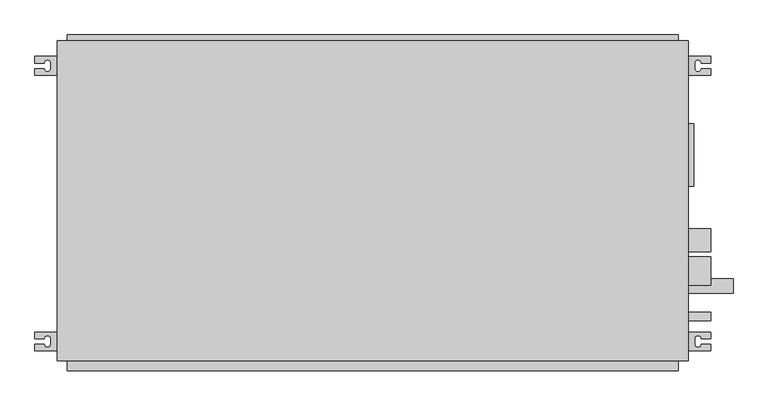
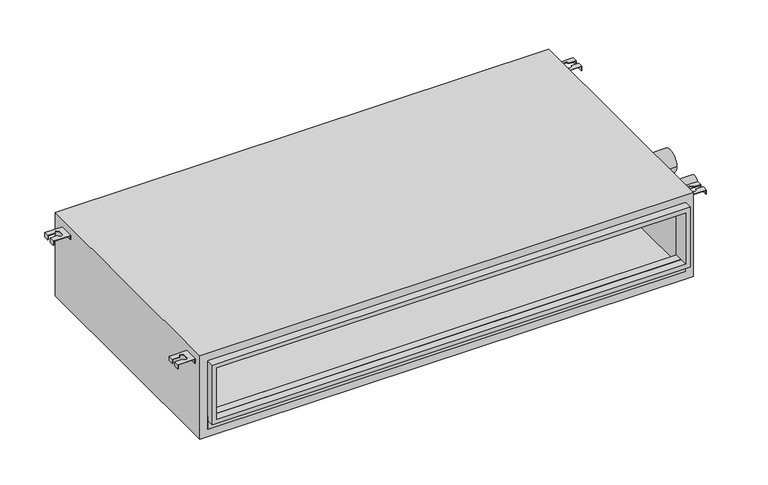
"""IFC4 building model written with IfcOpenShell, lengths in millimetres: proxy geometry, PEFY-P-NMAU-E_Medium_Static_Ducted : PEFY-P36NMAU-E."""

import ifcopenshell
import ifcopenshell.guid

model = None  # the IFC model being written
_history = None  # IfcOwnerHistory: only IFC2X3 demands one
_inside = {}  # id of a spatial element -> (the spatial element, [elements in it])
_under = {}  # id of a project, library or spatial element -> (it, [spatial elements below it])
_declared = {}  # id of a project -> (the project, [libraries it declares])
_typed = {}  # id of a type object -> (the type object, [elements of that type])
_made_of = {}  # id of a material, layer set ... -> (it, [elements and type objects made of it])


def new_model(schema):
    """Start an empty IFC model of exactly this schema.

    Asked for "IFC4X3", IfcOpenShell would pick the latest addendum, in which some entities
    have other attributes; the version numbers below select the first issue.
    IFC2X3 requires an IfcOwnerHistory on every rooted entity: one is made here for all.
    """
    global model, _history
    if schema == "IFC4X3":
        model = ifcopenshell.file(schema_version=(4, 3, 0, 0))
    else:
        model = ifcopenshell.file(schema=schema)
    _inside.clear()
    _under.clear()
    _declared.clear()
    _typed.clear()
    _made_of.clear()
    _history = None
    if model.schema == "IFC2X3":
        org = make("IfcOrganization", Name="unknown")
        user = make(
            "IfcPersonAndOrganization",
            ThePerson=make("IfcPerson", FamilyName="unknown"),
            TheOrganization=org,
        )
        app = make(
            "IfcApplication",
            ApplicationDeveloper=org,
            Version="unknown",
            ApplicationFullName="unknown",
            ApplicationIdentifier="unknown",
        )
        _history = make(
            "IfcOwnerHistory",
            OwningUser=user,
            OwningApplication=app,
            ChangeAction="ADDED",
            CreationDate=0,
        )
    return model


def make(cls, **values):
    """One entity of the class cls with the attributes given. An attribute that is None is left unset."""
    return model.create_entity(
        cls, **{name: value for name, value in values.items() if value is not None}
    )


def rooted(cls, **values):
    """An entity with a GlobalId (a new one), such as an element, a storey or a relation."""
    return make(cls, GlobalId=ifcopenshell.guid.new(), OwnerHistory=_history, **values)


def si_unit(unit_type, name, prefix=None):
    """IfcSIUnit, for example si_unit("LENGTHUNIT", "METRE", prefix="MILLI")."""
    return make("IfcSIUnit", UnitType=unit_type, Prefix=prefix, Name=name)


def assignment(units):
    """IfcUnitAssignment: the units of a project."""
    return None if units is None else make("IfcUnitAssignment", Units=units)


def point(xyz):
    """IfcCartesianPoint."""
    return None if xyz is None else make("IfcCartesianPoint", Coordinates=xyz)


def direction(xyz):
    """IfcDirection."""
    return None if xyz is None else make("IfcDirection", DirectionRatios=xyz)


def frame(location, z_axis=None, x_axis=None):
    """IfcAxis2Placement3D, a coordinate frame: its origin and axes. An axis left out is left unset."""
    return make(
        "IfcAxis2Placement3D",
        Location=point(location),
        Axis=direction(z_axis),
        RefDirection=direction(x_axis),
    )


def frame_2d(location, x_axis=None):
    """IfcAxis2Placement2D, a coordinate frame in the plane: its origin and x axis."""
    return make(
        "IfcAxis2Placement2D", Location=point(location), RefDirection=direction(x_axis)
    )


def origin():
    """The frame at (0, 0, 0) with its axes left unset."""
    return frame((0.0, 0.0, 0.0))


def place(relative_to, where):
    """IfcLocalPlacement: puts the frame where relative to a parent placement (None: the world)."""
    return make(
        "IfcLocalPlacement", PlacementRelTo=relative_to, RelativePlacement=where
    )


def context(
    kind, dimensions, precision=None, world=None, true_north=None, identifier=None
):
    """IfcGeometricRepresentationContext, for example the 3D "Model" context."""
    return make(
        "IfcGeometricRepresentationContext",
        ContextIdentifier=identifier,
        ContextType=kind,
        CoordinateSpaceDimension=dimensions,
        Precision=precision,
        WorldCoordinateSystem=world,
        TrueNorth=true_north,
    )


def project(units=None, contexts=None):
    """IfcProject with its units and contexts."""
    return rooted(
        "IfcProject",
        Name="project",
        RepresentationContexts=contexts,
        UnitsInContext=assignment(units),
    )


def spatial(cls, under=None, at=None, **own):
    """A site, building, storey or space (cls), placed at a placement, below another one or the project."""
    s = rooted(cls, ObjectPlacement=at, **own)
    if under is not None:
        _under.setdefault(under.id(), (under, []))[1].append(s)
    return s


def polyline(points):
    """IfcPolyline through the points."""
    return make("IfcPolyline", Points=[point(p) for p in points])


def circle_curve(where, radius):
    """IfcCircle in the frame where."""
    return make("IfcCircle", Position=where, Radius=radius)


def trimmed(basis, trim1, trim2, sense, master):
    """IfcTrimmedCurve: the piece of a basis curve between two trims."""
    return make(
        "IfcTrimmedCurve",
        BasisCurve=basis,
        Trim1=trim1,
        Trim2=trim2,
        SenseAgreement=sense,
        MasterRepresentation=master,
    )


def segment(curve, same_sense, transition):
    """IfcCompositeCurveSegment."""
    return make(
        "IfcCompositeCurveSegment",
        Transition=transition,
        SameSense=same_sense,
        ParentCurve=curve,
    )


def composite_curve(segments, self_intersect=None):
    """IfcCompositeCurve: segments joined end to end."""
    return make("IfcCompositeCurve", Segments=segments, SelfIntersect=self_intersect)


def outline(outer, holes=None, kind="AREA"):
    """IfcArbitraryClosedProfileDef: a profile drawn as a closed curve; with holes, ...WithVoids."""
    if holes is None:
        return make("IfcArbitraryClosedProfileDef", ProfileType=kind, OuterCurve=outer)
    return make(
        "IfcArbitraryProfileDefWithVoids",
        ProfileType=kind,
        OuterCurve=outer,
        InnerCurves=holes,
    )


def extrude(swept, where, along, depth):
    """IfcExtrudedAreaSolid: the profile swept, set in the frame where, extruded along a direction by depth."""
    return make(
        "IfcExtrudedAreaSolid",
        SweptArea=swept,
        Position=where,
        ExtrudedDirection=direction(along),
        Depth=depth,
    )


def shape(context_of_items, identifier, shape_type, items):
    """IfcShapeRepresentation: the items that make up one representation, for example the "Body"."""
    return make(
        "IfcShapeRepresentation",
        ContextOfItems=context_of_items,
        RepresentationIdentifier=identifier,
        RepresentationType=shape_type,
        Items=items,
    )


def source(mapping_origin, context_of_items, identifier, shape_type, items):
    """IfcRepresentationMap: a shape defined once, which mapped items show again and again."""
    return make(
        "IfcRepresentationMap",
        MappingOrigin=mapping_origin,
        MappedRepresentation=shape(context_of_items, identifier, shape_type, items),
    )


def transform(
    local_origin,
    x_axis=None,
    y_axis=None,
    z_axis=None,
    scale=None,
    scale2=None,
    scale3=None,
    uniform=True,
):
    """IfcCartesianTransformationOperator3D, or its non-uniform kind. x_axis, y_axis, z_axis: its Axis1, 2, 3."""
    if uniform:
        return make(
            "IfcCartesianTransformationOperator3D",
            Axis1=direction(x_axis),
            Axis2=direction(y_axis),
            LocalOrigin=point(local_origin),
            Scale=scale,
            Axis3=direction(z_axis),
        )
    return make(
        "IfcCartesianTransformationOperator3DnonUniform",
        Axis1=direction(x_axis),
        Axis2=direction(y_axis),
        LocalOrigin=point(local_origin),
        Scale=scale,
        Axis3=direction(z_axis),
        Scale2=scale2,
        Scale3=scale3,
    )


def mapped(mapping_source, mapping_target):
    """IfcMappedItem: shows the shape of a source again, moved by a transform."""
    return make(
        "IfcMappedItem", MappingSource=mapping_source, MappingTarget=mapping_target
    )


def made_of(thing, what):
    """Note that an element or type object is made of a material, layer set ...; save() writes the relation."""
    if what is not None:
        _made_of.setdefault(what.id(), (what, []))[1].append(thing)
    return thing


def element(
    cls,
    number,
    at=None,
    inside=None,
    cuts=None,
    type_object=None,
    material=None,
    context=None,
    identifier="Body",
    shape_type=None,
    held_by="IfcProductDefinitionShape",
    body=None,
    shapes=None,
    **own,
):
    """One element of the class cls, such as IfcWall. Its Tag is "e" and its number.

    at: its placement. inside: the storey or other place that contains it. cuts: it is an
    opening in that element (IfcRelVoidsElement). A single representation is given by context,
    identifier, shape_type and body (its items); several are given by shapes. held_by: the class
    of the entity that holds the representations. save() writes the other relations.
    """
    e = rooted(cls, Tag="e%d" % number, ObjectPlacement=at, **own)
    if body is not None:
        shapes = [shape(context, identifier, shape_type, body)]
    if shapes is not None:
        e.Representation = make(held_by, Representations=shapes)
    if inside is not None:
        _inside.setdefault(inside.id(), (inside, []))[1].append(e)
    if cuts is not None:
        rooted(
            "IfcRelVoidsElement", RelatingBuildingElement=cuts, RelatedOpeningElement=e
        )
    if type_object is not None:
        _typed.setdefault(type_object.id(), (type_object, []))[1].append(e)
    return made_of(e, material)


def aggregate(whole, parts):
    """IfcRelAggregates: a whole, such as a stair, and the parts it consists of."""
    return rooted("IfcRelAggregates", RelatingObject=whole, RelatedObjects=parts)


def save(model, path):
    """Write the relations noted so far, then the file.

    IfcRelAggregates (storeys below a building ...), IfcRelContainedInSpatialStructure (elements
    in a storey), IfcRelDefinesByType, IfcRelAssociatesMaterial and IfcRelDeclares: one each for
    every whole, place, type object, material and project.
    """
    for whole, parts in _under.values():
        aggregate(whole, parts)
    for where, things in _inside.values():
        rooted(
            "IfcRelContainedInSpatialStructure",
            RelatedElements=things,
            RelatingStructure=where,
        )
    for kind, things in _typed.values():
        rooted("IfcRelDefinesByType", RelatedObjects=things, RelatingType=kind)
    for what, things in _made_of.values():
        rooted("IfcRelAssociatesMaterial", RelatedObjects=things, RelatingMaterial=what)
    for by, libraries in _declared.values():
        rooted("IfcRelDeclares", RelatingContext=by, RelatedDefinitions=libraries)
    model.write(path)


def plane_surface(at):
    """IfcPlane: the flat surface through the origin of the frame at, square to its z axis."""
    return make("IfcPlane", Position=at)


def revolved_surface(curve, axis_point, axis_direction):
    """IfcSurfaceOfRevolution: the curve turned about the line through axis_point along axis_direction."""
    return make(
        "IfcSurfaceOfRevolution",
        SweptCurve=make("IfcArbitraryOpenProfileDef", ProfileType="CURVE", Curve=curve),
        AxisPosition=make("IfcAxis1Placement", Location=point(axis_point), Axis=direction(axis_direction)),
    )


def advanced_brep(points, edges, surfaces, faces):
    """IfcAdvancedBrep: a solid bounded by faces that lie on surfaces and meet in shared edges.

    An edge is (start, end): straight between two places in points (the first is 0);
    or (start, end, curve); or (start, end, curve, False) where it runs against its curve.
    A face is (place in surfaces, loops), or (place, loops, False) where it looks against
    its surface's normal. A loop lists edges by number (the first is 1), with a minus sign
    where the edge is run from its end to its start. The first loop is the outer one.
    """
    corners = [point(p) for p in points]
    vertices = [make("IfcVertexPoint", VertexGeometry=c) for c in corners]
    made = []
    for start, end, *more in edges:
        made.append(
            make(
                "IfcEdgeCurve",
                EdgeStart=vertices[start],
                EdgeEnd=vertices[end],
                EdgeGeometry=more[0] if more else make("IfcPolyline", Points=[corners[start], corners[end]]),
                SameSense=more[1] if len(more) > 1 else True,
            )
        )
    hull = []
    for where, loops, *sense in faces:
        bounds = []
        for j, loop in enumerate(loops):
            ring = [make("IfcOrientedEdge", EdgeElement=made[abs(k) - 1], Orientation=k > 0) for k in loop]
            bounds.append(
                make(
                    "IfcFaceOuterBound" if j == 0 else "IfcFaceBound",
                    Bound=make("IfcEdgeLoop", EdgeList=ring),
                    Orientation=True,
                )
            )
        hull.append(make("IfcAdvancedFace", Bounds=bounds, FaceSurface=surfaces[where], SameSense=sense[0] if sense else True))
    return make("IfcAdvancedBrep", Outer=make("IfcClosedShell", CfsFaces=hull))


def mechanical_equipment_d478180c(model_context):
    return source(origin(), model_context, "Body", "SolidModel", [
        advanced_brep(
        [(-760.105993, -231.05, 249.2375), (-760.105993, -246.05, 249.2375), (-739.099743, -246.05, 249.2375), (-725.099743, -246.05, 249.2375), (-725.099743, -258.05, 249.2375), (-739.099743, -258.05, 249.2375), (-760.105993, -258.05, 249.2375), (-760.105993, -273.05, 249.2375), (-710.099743, -273.05, 249.2375), (-710.099743, -231.05, 249.2375), (-760.105993, -231.05, 236.4972162), (-758.517993, -231.05, 236.4972162), (-758.517993, -246.05, 236.4972162), (-760.105993, -246.05, 236.4972162), (-758.517993, -273.05, 236.4972162), (-760.105993, -273.05, 236.4972162), (-760.105993, -258.05, 236.4972162), (-758.517993, -258.05, 236.4972162), (-710.099743, -231.05, 236.4972162), (-710.099743, -273.05, 236.4972162), (-711.687743, -273.05, 236.4972162), (-711.687743, -231.05, 236.4972162), (-758.517993, -246.05, 247.65), (-739.099743, -246.05, 247.65), (-758.517993, -231.05, 247.65), (-711.687743, -231.05, 247.65), (-758.517993, -258.05, 247.65), (-758.517993, -273.05, 247.65), (-739.099743, -258.05, 247.65), (-711.687743, -273.05, 247.65), (-725.099743, -258.05, 247.65), (-725.099743, -246.05, 247.65)],
        [
            (0, 1),
            (1, 2),
            (2, 3, circle_curve(frame((-732.099743, -246.05, 249.2375), z_axis=(0.0, 0.0, -1.0), x_axis=(1.0, 0.0, 0.0)), 7.0)),
            (3, 4),
            (4, 5, circle_curve(frame((-732.099743, -258.05, 249.2375), z_axis=(0.0, 0.0, -1.0), x_axis=(1.0, 0.0, 0.0)), 7.0)),
            (5, 6),
            (6, 7),
            (7, 8),
            (8, 9),
            (9, 0),
            (10, 11),
            (11, 12),
            (12, 13),
            (13, 10),
            (14, 15),
            (15, 16),
            (16, 17),
            (17, 14),
            (18, 19),
            (19, 20),
            (20, 21),
            (21, 18),
            (13, 1),
            (0, 10),
            (12, 22),
            (22, 23),
            (23, 2),
            (11, 24),
            (24, 22),
            (9, 18),
            (21, 25),
            (25, 24),
            (17, 26),
            (26, 27),
            (27, 14),
            (5, 28),
            (28, 26),
            (16, 6),
            (15, 7),
            (27, 29),
            (29, 20),
            (19, 8),
            (29, 25),
            (30, 31),
            (31, 23, circle_curve(frame((-732.099743, -246.05, 247.65), z_axis=(0.0, 0.0, 1.0), x_axis=(1.0, 0.0, 0.0)), 7.0)),
            (28, 30, circle_curve(frame((-732.099743, -258.05, 247.65), z_axis=(0.0, 0.0, 1.0), x_axis=(1.0, 0.0, 0.0)), 7.0)),
            (4, 30),
            (31, 3),
        ],
        [
            plane_surface(frame((-760.105993, -231.05, 249.2375), z_axis=(0.0, 0.0, 1.0), x_axis=(0.0, -1.0, 0.0))),
            plane_surface(frame((-760.105993, -231.05, 236.4972162), z_axis=(0.0, 0.0, -1.0), x_axis=(0.0, 1.0, 0.0))),
            plane_surface(frame((-760.105993, -231.05, 249.2375), z_axis=(-1.0, 0.0, 0.0), x_axis=(0.0, 0.0, -1.0))),
            plane_surface(frame((-760.105993, -246.05, 249.2375), z_axis=(0.0, -1.0, 0.0), x_axis=(0.0, 0.0, -1.0))),
            plane_surface(frame((-758.517993, -246.05, 249.2375), z_axis=(1.0, 0.0, 0.0), x_axis=(0.0, 0.0, -1.0))),
            plane_surface(frame((-758.517993, -231.05, 249.2375), z_axis=(0.0, 1.0, 0.0), x_axis=(0.0, 0.0, -1.0))),
            plane_surface(frame((-758.517993, -273.05, 249.2375), z_axis=(1.0, 0.0, 0.0), x_axis=(0.0, 0.0, -1.0))),
            plane_surface(frame((-758.517993, -258.05, 249.2375), z_axis=(0.0, 1.0, 0.0), x_axis=(0.0, 0.0, -1.0))),
            plane_surface(frame((-760.105993, -258.05, 249.2375), z_axis=(-1.0, 0.0, 0.0), x_axis=(0.0, 0.0, -1.0))),
            plane_surface(frame((-760.105993, -273.05, 249.2375), z_axis=(0.0, -1.0, 0.0), x_axis=(0.0, 0.0, -1.0))),
            plane_surface(frame((-711.687743, -231.05, 249.2375), z_axis=(-1.0, 0.0, 0.0), x_axis=(0.0, 0.0, -1.0))),
            plane_surface(frame((-710.099743, -273.05, 249.2375), z_axis=(1.0, 0.0, 0.0), x_axis=(0.0, 0.0, -1.0))),
            plane_surface(frame((-725.099743, -258.05, 247.65), z_axis=(0.0, 0.0, -1.0), x_axis=(0.0, 1.0, 0.0))),
            revolved_surface(polyline([(-725.099743, -258.05, 247.65), (-725.099743, -258.05, 249.2375)]), (-732.099743, -258.05, 247.65), (0.0, 0.0, -1.0)),
            revolved_surface(polyline([(-725.099743, -246.05, 247.65), (-725.099743, -246.05, 249.2375)]), (-732.099743, -246.05, 247.65), (0.0, 0.0, -1.0)),
            plane_surface(frame((-725.099743, -246.05, 249.2375), z_axis=(-1.0, 0.0, 0.0), x_axis=(0.0, 0.0, -1.0))),
        ],
        [
            (0, [[1, 2, 3, 4, 5, 6, 7, 8, 9, 10]]),
            (1, [[11, 12, 13, 14]]),
            (1, [[15, 16, 17, 18]]),
            (1, [[19, 20, 21, 22]]),
            (2, [[23, -1, 24, -14]]),
            (3, [[-2, -23, -13, 25, 26, 27]]),
            (4, [[-12, 28, 29, -25]]),
            (5, [[-10, 30, -22, 31, 32, -28, -11, -24]]),
            (6, [[-18, 33, 34, 35]]),
            (7, [[-6, 36, 37, -33, -17, 38]]),
            (8, [[39, -7, -38, -16]]),
            (9, [[-8, -39, -15, -35, 40, 41, -20, 42]]),
            (10, [[-21, -41, 43, -31]]),
            (11, [[-30, -9, -42, -19]]),
            (12, [[44, 45, -26, -29, -32, -43, -40, -34, -37, 46]]),
            (13, [[-5, 47, -46, -36]]),
            (14, [[-3, -27, -45, 48]]),
            (15, [[-4, -48, -44, -47]]),
        ],
    ),
        advanced_brep(
        [(740.081507, -231.05, 249.2375), (690.075257, -231.05, 249.2375), (690.075257, -273.05, 249.2375), (740.081507, -273.05, 249.2375), (740.081507, -258.05, 249.2375), (719.075257, -258.05, 249.2375), (705.075257, -258.05, 249.2375), (705.075257, -246.05, 249.2375), (719.075257, -246.05, 249.2375), (740.081507, -246.05, 249.2375), (740.081507, -231.05, 236.4972162), (740.081507, -246.05, 236.4972162), (738.493507, -246.05, 236.4972162), (738.493507, -231.05, 236.4972162), (738.493507, -273.05, 236.4972162), (738.493507, -258.05, 236.4972162), (740.081507, -258.05, 236.4972162), (740.081507, -273.05, 236.4972162), (690.075257, -231.05, 236.4972162), (691.663257, -231.05, 236.4972162), (691.663257, -273.05, 236.4972162), (690.075257, -273.05, 236.4972162), (719.075257, -246.05, 247.65), (738.493507, -246.05, 247.65), (738.493507, -231.05, 247.65), (691.663257, -231.05, 247.65), (738.493507, -273.05, 247.65), (738.493507, -258.05, 247.65), (719.075257, -258.05, 247.65), (691.663257, -273.05, 247.65), (705.075257, -258.05, 247.65), (705.075257, -246.05, 247.65)],
        [
            (0, 1),
            (1, 2),
            (2, 3),
            (3, 4),
            (4, 5),
            (5, 6, circle_curve(frame((712.075257, -258.05, 249.2375), z_axis=(0.0, 0.0, -1.0), x_axis=(-1.0, 0.0, 0.0)), 7.0)),
            (6, 7),
            (7, 8, circle_curve(frame((712.075257, -246.05, 249.2375), z_axis=(0.0, 0.0, -1.0), x_axis=(-1.0, 0.0, 0.0)), 7.0)),
            (8, 9),
            (9, 0),
            (10, 11),
            (11, 12),
            (12, 13),
            (13, 10),
            (14, 15),
            (15, 16),
            (16, 17),
            (17, 14),
            (18, 19),
            (19, 20),
            (20, 21),
            (21, 18),
            (10, 0),
            (9, 11),
            (8, 22),
            (22, 23),
            (23, 12),
            (23, 24),
            (24, 13),
            (24, 25),
            (25, 19),
            (18, 1),
            (14, 26),
            (26, 27),
            (27, 15),
            (4, 16),
            (27, 28),
            (28, 5),
            (3, 17),
            (2, 21),
            (20, 29),
            (29, 26),
            (25, 29),
            (30, 28, circle_curve(frame((712.075257, -258.05, 247.65), z_axis=(0.0, 0.0, 1.0), x_axis=(-1.0, 0.0, 0.0)), 7.0)),
            (22, 31, circle_curve(frame((712.075257, -246.05, 247.65), z_axis=(0.0, 0.0, 1.0), x_axis=(-1.0, 0.0, 0.0)), 7.0)),
            (31, 30),
            (30, 6),
            (7, 31),
        ],
        [
            plane_surface(frame((740.081507, -231.05, 249.2375), z_axis=(0.0, 0.0, 1.0), x_axis=(0.0, -1.0, 0.0))),
            plane_surface(frame((740.081507, -231.05, 236.4972162), z_axis=(0.0, 0.0, -1.0), x_axis=(0.0, 1.0, 0.0))),
            plane_surface(frame((740.081507, -231.05, 249.2375), z_axis=(1.0, 0.0, 0.0), x_axis=(0.0, 0.0, -1.0))),
            plane_surface(frame((740.081507, -246.05, 249.2375), z_axis=(0.0, -1.0, 0.0), x_axis=(0.0, 0.0, -1.0))),
            plane_surface(frame((738.493507, -246.05, 249.2375), z_axis=(-1.0, 0.0, 0.0), x_axis=(0.0, 0.0, -1.0))),
            plane_surface(frame((738.493507, -231.05, 249.2375), z_axis=(0.0, 1.0, 0.0), x_axis=(0.0, 0.0, -1.0))),
            plane_surface(frame((738.493507, -273.05, 249.2375), z_axis=(-1.0, 0.0, 0.0), x_axis=(0.0, 0.0, -1.0))),
            plane_surface(frame((738.493507, -258.05, 249.2375), z_axis=(0.0, 1.0, 0.0), x_axis=(0.0, 0.0, -1.0))),
            plane_surface(frame((740.081507, -258.05, 249.2375), z_axis=(1.0, 0.0, 0.0), x_axis=(0.0, 0.0, -1.0))),
            plane_surface(frame((740.081507, -273.05, 249.2375), z_axis=(0.0, -1.0, 0.0), x_axis=(0.0, 0.0, -1.0))),
            plane_surface(frame((691.663257, -231.05, 249.2375), z_axis=(1.0, 0.0, 0.0), x_axis=(0.0, 0.0, -1.0))),
            plane_surface(frame((690.075257, -273.05, 249.2375), z_axis=(-1.0, 0.0, 0.0), x_axis=(0.0, 0.0, -1.0))),
            plane_surface(frame((705.075257, -258.05, 247.65), z_axis=(0.0, 0.0, -1.0), x_axis=(0.0, 1.0, 0.0))),
            revolved_surface(polyline([(705.075257, -258.05, 247.65), (705.075257, -258.05, 249.2375)]), (712.075257, -258.05, 247.65), (0.0, 0.0, -1.0)),
            revolved_surface(polyline([(705.075257, -246.05, 247.65), (705.075257, -246.05, 249.2375)]), (712.075257, -246.05, 247.65), (0.0, 0.0, -1.0)),
            plane_surface(frame((705.075257, -246.05, 249.2375), z_axis=(1.0, 0.0, 0.0), x_axis=(0.0, 0.0, -1.0))),
        ],
        [
            (0, [[1, 2, 3, 4, 5, 6, 7, 8, 9, 10]]),
            (1, [[11, 12, 13, 14]]),
            (1, [[15, 16, 17, 18]]),
            (1, [[19, 20, 21, 22]]),
            (2, [[-11, 23, -10, 24]]),
            (3, [[25, 26, 27, -12, -24, -9]]),
            (4, [[-27, 28, 29, -13]]),
            (5, [[-23, -14, -29, 30, 31, -19, 32, -1]]),
            (6, [[33, 34, 35, -15]]),
            (7, [[36, -16, -35, 37, 38, -5]]),
            (8, [[-17, -36, -4, 39]]),
            (9, [[40, -21, 41, 42, -33, -18, -39, -3]]),
            (10, [[-31, 43, -41, -20]]),
            (11, [[-22, -40, -2, -32]]),
            (12, [[44, -37, -34, -42, -43, -30, -28, -26, 45, 46]]),
            (13, [[-38, -44, 47, -6]]),
            (14, [[48, -45, -25, -8]]),
            (15, [[-47, -46, -48, -7]]),
        ],
    ),
        advanced_brep(
        [(-760.105993, 339.0, 249.2375), (-710.099743, 339.0, 249.2375), (-710.099743, 381.0, 249.2375), (-760.105993, 381.0, 249.2375), (-760.105993, 366.0, 249.2375), (-739.099743, 366.0, 249.2375), (-725.099743, 366.0, 249.2375), (-725.099743, 354.0, 249.2375), (-739.099743, 354.0, 249.2375), (-760.105993, 354.0, 249.2375), (-760.105993, 339.0, 236.4972162), (-760.105993, 354.0, 236.4972162), (-758.517993, 354.0, 236.4972162), (-758.517993, 339.0, 236.4972162), (-758.517993, 381.0, 236.4972162), (-758.517993, 366.0, 236.4972162), (-760.105993, 366.0, 236.4972162), (-760.105993, 381.0, 236.4972162), (-710.099743, 339.0, 236.4972162), (-711.687743, 339.0, 236.4972162), (-711.687743, 381.0, 236.4972162), (-710.099743, 381.0, 236.4972162), (-739.099743, 354.0, 247.65), (-758.517993, 354.0, 247.65), (-758.517993, 339.0, 247.65), (-711.687743, 339.0, 247.65), (-758.517993, 381.0, 247.65), (-758.517993, 366.0, 247.65), (-739.099743, 366.0, 247.65), (-711.687743, 381.0, 247.65), (-725.099743, 366.0, 247.65), (-725.099743, 354.0, 247.65)],
        [
            (0, 1),
            (1, 2),
            (2, 3),
            (3, 4),
            (4, 5),
            (5, 6, circle_curve(frame((-732.099743, 366.0, 249.2375), z_axis=(0.0, 0.0, -1.0), x_axis=(1.0, 0.0, 0.0)), 7.0)),
            (6, 7),
            (7, 8, circle_curve(frame((-732.099743, 354.0, 249.2375), z_axis=(0.0, 0.0, -1.0), x_axis=(1.0, 0.0, 0.0)), 7.0)),
            (8, 9),
            (9, 0),
            (10, 11),
            (11, 12),
            (12, 13),
            (13, 10),
            (14, 15),
            (15, 16),
            (16, 17),
            (17, 14),
            (18, 19),
            (19, 20),
            (20, 21),
            (21, 18),
            (10, 0),
            (9, 11),
            (8, 22),
            (22, 23),
            (23, 12),
            (23, 24),
            (24, 13),
            (24, 25),
            (25, 19),
            (18, 1),
            (14, 26),
            (26, 27),
            (27, 15),
            (4, 16),
            (27, 28),
            (28, 5),
            (3, 17),
            (2, 21),
            (20, 29),
            (29, 26),
            (25, 29),
            (30, 28, circle_curve(frame((-732.099743, 366.0, 247.65), z_axis=(0.0, 0.0, 1.0), x_axis=(1.0, 0.0, 0.0)), 7.0)),
            (22, 31, circle_curve(frame((-732.099743, 354.0, 247.65), z_axis=(0.0, 0.0, 1.0), x_axis=(1.0, 0.0, 0.0)), 7.0)),
            (31, 30),
            (30, 6),
            (7, 31),
        ],
        [
            plane_surface(frame((-760.105993, 339.0, 249.2375), z_axis=(0.0, 0.0, 1.0), x_axis=(0.0, 1.0, 0.0))),
            plane_surface(frame((-760.105993, 339.0, 236.4972162), z_axis=(0.0, 0.0, -1.0), x_axis=(0.0, -1.0, 0.0))),
            plane_surface(frame((-760.105993, 339.0, 249.2375), z_axis=(-1.0, 0.0, 0.0), x_axis=(0.0, 0.0, -1.0))),
            plane_surface(frame((-760.105993, 354.0, 249.2375), z_axis=(0.0, 1.0, 0.0), x_axis=(0.0, 0.0, -1.0))),
            plane_surface(frame((-758.517993, 354.0, 249.2375), z_axis=(1.0, 0.0, 0.0), x_axis=(0.0, 0.0, -1.0))),
            plane_surface(frame((-758.517993, 339.0, 249.2375), z_axis=(0.0, -1.0, 0.0), x_axis=(0.0, 0.0, -1.0))),
            plane_surface(frame((-758.517993, 381.0, 249.2375), z_axis=(1.0, 0.0, 0.0), x_axis=(0.0, 0.0, -1.0))),
            plane_surface(frame((-758.517993, 366.0, 249.2375), z_axis=(0.0, -1.0, 0.0), x_axis=(0.0, 0.0, -1.0))),
            plane_surface(frame((-760.105993, 366.0, 249.2375), z_axis=(-1.0, 0.0, 0.0), x_axis=(0.0, 0.0, -1.0))),
            plane_surface(frame((-760.105993, 381.0, 249.2375), z_axis=(0.0, 1.0, 0.0), x_axis=(0.0, 0.0, -1.0))),
            plane_surface(frame((-711.687743, 339.0, 249.2375), z_axis=(-1.0, 0.0, 0.0), x_axis=(0.0, 0.0, -1.0))),
            plane_surface(frame((-710.099743, 381.0, 249.2375), z_axis=(1.0, 0.0, 0.0), x_axis=(0.0, 0.0, -1.0))),
            plane_surface(frame((-725.099743, 366.0, 247.65), z_axis=(0.0, 0.0, -1.0), x_axis=(0.0, -1.0, 0.0))),
            revolved_surface(polyline([(-725.099743, 366.0, 247.65), (-725.099743, 366.0, 249.2375)]), (-732.099743, 366.0, 247.65), (0.0, 0.0, -1.0)),
            revolved_surface(polyline([(-725.099743, 354.0, 247.65), (-725.099743, 354.0, 249.2375)]), (-732.099743, 354.0, 247.65), (0.0, 0.0, -1.0)),
            plane_surface(frame((-725.099743, 354.0, 249.2375), z_axis=(-1.0, 0.0, 0.0), x_axis=(0.0, 0.0, -1.0))),
        ],
        [
            (0, [[1, 2, 3, 4, 5, 6, 7, 8, 9, 10]]),
            (1, [[11, 12, 13, 14]]),
            (1, [[15, 16, 17, 18]]),
            (1, [[19, 20, 21, 22]]),
            (2, [[-11, 23, -10, 24]]),
            (3, [[25, 26, 27, -12, -24, -9]]),
            (4, [[-27, 28, 29, -13]]),
            (5, [[-23, -14, -29, 30, 31, -19, 32, -1]]),
            (6, [[33, 34, 35, -15]]),
            (7, [[36, -16, -35, 37, 38, -5]]),
            (8, [[-17, -36, -4, 39]]),
            (9, [[40, -21, 41, 42, -33, -18, -39, -3]]),
            (10, [[-31, 43, -41, -20]]),
            (11, [[-22, -40, -2, -32]]),
            (12, [[44, -37, -34, -42, -43, -30, -28, -26, 45, 46]]),
            (13, [[-38, -44, 47, -6]]),
            (14, [[48, -45, -25, -8]]),
            (15, [[-47, -46, -48, -7]]),
        ],
    ),
        advanced_brep(
        [(740.081507, 339.0, 249.2375), (740.081507, 354.0, 249.2375), (719.075257, 354.0, 249.2375), (705.075257, 354.0, 249.2375), (705.075257, 366.0, 249.2375), (719.075257, 366.0, 249.2375), (740.081507, 366.0, 249.2375), (740.081507, 381.0, 249.2375), (690.075257, 381.0, 249.2375), (690.075257, 339.0, 249.2375), (740.081507, 339.0, 236.4972162), (738.493507, 339.0, 236.4972162), (738.493507, 354.0, 236.4972162), (740.081507, 354.0, 236.4972162), (738.493507, 381.0, 236.4972162), (740.081507, 381.0, 236.4972162), (740.081507, 366.0, 236.4972162), (738.493507, 366.0, 236.4972162), (690.075257, 339.0, 236.4972162), (690.075257, 381.0, 236.4972162), (691.663257, 381.0, 236.4972162), (691.663257, 339.0, 236.4972162), (738.493507, 354.0, 247.65), (719.075257, 354.0, 247.65), (738.493507, 339.0, 247.65), (691.663257, 339.0, 247.65), (738.493507, 366.0, 247.65), (738.493507, 381.0, 247.65), (719.075257, 366.0, 247.65), (691.663257, 381.0, 247.65), (705.075257, 366.0, 247.65), (705.075257, 354.0, 247.65)],
        [
            (0, 1),
            (1, 2),
            (2, 3, circle_curve(frame((712.075257, 354.0, 249.2375), z_axis=(0.0, 0.0, -1.0), x_axis=(-1.0, 0.0, 0.0)), 7.0)),
            (3, 4),
            (4, 5, circle_curve(frame((712.075257, 366.0, 249.2375), z_axis=(0.0, 0.0, -1.0), x_axis=(-1.0, 0.0, 0.0)), 7.0)),
            (5, 6),
            (6, 7),
            (7, 8),
            (8, 9),
            (9, 0),
            (10, 11),
            (11, 12),
            (12, 13),
            (13, 10),
            (14, 15),
            (15, 16),
            (16, 17),
            (17, 14),
            (18, 19),
            (19, 20),
            (20, 21),
            (21, 18),
            (13, 1),
            (0, 10),
            (12, 22),
            (22, 23),
            (23, 2),
            (11, 24),
            (24, 22),
            (9, 18),
            (21, 25),
            (25, 24),
            (17, 26),
            (26, 27),
            (27, 14),
            (5, 28),
            (28, 26),
            (16, 6),
            (15, 7),
            (27, 29),
            (29, 20),
            (19, 8),
            (29, 25),
            (30, 31),
            (31, 23, circle_curve(frame((712.075257, 354.0, 247.65), z_axis=(0.0, 0.0, 1.0), x_axis=(-1.0, 0.0, 0.0)), 7.0)),
            (28, 30, circle_curve(frame((712.075257, 366.0, 247.65), z_axis=(0.0, 0.0, 1.0), x_axis=(-1.0, 0.0, 0.0)), 7.0)),
            (4, 30),
            (31, 3),
        ],
        [
            plane_surface(frame((740.081507, 339.0, 249.2375), z_axis=(0.0, 0.0, 1.0), x_axis=(0.0, 1.0, 0.0))),
            plane_surface(frame((740.081507, 339.0, 236.4972162), z_axis=(0.0, 0.0, -1.0), x_axis=(0.0, -1.0, 0.0))),
            plane_surface(frame((740.081507, 339.0, 249.2375), z_axis=(1.0, 0.0, 0.0), x_axis=(0.0, 0.0, -1.0))),
            plane_surface(frame((740.081507, 354.0, 249.2375), z_axis=(0.0, 1.0, 0.0), x_axis=(0.0, 0.0, -1.0))),
            plane_surface(frame((738.493507, 354.0, 249.2375), z_axis=(-1.0, 0.0, 0.0), x_axis=(0.0, 0.0, -1.0))),
            plane_surface(frame((738.493507, 339.0, 249.2375), z_axis=(0.0, -1.0, 0.0), x_axis=(0.0, 0.0, -1.0))),
            plane_surface(frame((738.493507, 381.0, 249.2375), z_axis=(-1.0, 0.0, 0.0), x_axis=(0.0, 0.0, -1.0))),
            plane_surface(frame((738.493507, 366.0, 249.2375), z_axis=(0.0, -1.0, 0.0), x_axis=(0.0, 0.0, -1.0))),
            plane_surface(frame((740.081507, 366.0, 249.2375), z_axis=(1.0, 0.0, 0.0), x_axis=(0.0, 0.0, -1.0))),
            plane_surface(frame((740.081507, 381.0, 249.2375), z_axis=(0.0, 1.0, 0.0), x_axis=(0.0, 0.0, -1.0))),
            plane_surface(frame((691.663257, 339.0, 249.2375), z_axis=(1.0, 0.0, 0.0), x_axis=(0.0, 0.0, -1.0))),
            plane_surface(frame((690.075257, 381.0, 249.2375), z_axis=(-1.0, 0.0, 0.0), x_axis=(0.0, 0.0, -1.0))),
            plane_surface(frame((705.075257, 366.0, 247.65), z_axis=(0.0, 0.0, -1.0), x_axis=(0.0, -1.0, 0.0))),
            revolved_surface(polyline([(705.075257, 366.0, 247.65), (705.075257, 366.0, 249.2375)]), (712.075257, 366.0, 247.65), (0.0, 0.0, -1.0)),
            revolved_surface(polyline([(705.075257, 354.0, 247.65), (705.075257, 354.0, 249.2375)]), (712.075257, 354.0, 247.65), (0.0, 0.0, -1.0)),
            plane_surface(frame((705.075257, 354.0, 249.2375), z_axis=(1.0, 0.0, 0.0), x_axis=(0.0, 0.0, -1.0))),
        ],
        [
            (0, [[1, 2, 3, 4, 5, 6, 7, 8, 9, 10]]),
            (1, [[11, 12, 13, 14]]),
            (1, [[15, 16, 17, 18]]),
            (1, [[19, 20, 21, 22]]),
            (2, [[23, -1, 24, -14]]),
            (3, [[-2, -23, -13, 25, 26, 27]]),
            (4, [[-12, 28, 29, -25]]),
            (5, [[-10, 30, -22, 31, 32, -28, -11, -24]]),
            (6, [[-18, 33, 34, 35]]),
            (7, [[-6, 36, 37, -33, -17, 38]]),
            (8, [[39, -7, -38, -16]]),
            (9, [[-8, -39, -15, -35, 40, 41, -20, 42]]),
            (10, [[-21, -41, 43, -31]]),
            (11, [[-30, -9, -42, -19]]),
            (12, [[44, 45, -26, -29, -32, -43, -40, -34, -37, 46]]),
            (13, [[-5, 47, -46, -36]]),
            (14, [[-3, -27, -45, 48]]),
            (15, [[-4, -48, -44, -47]]),
        ],
    ),
        extrude(outline(polyline([(667.850257, -295.275), (-687.874743, -295.275), (-687.874743, -273.05), (667.850257, -273.05), (667.850257, -295.275)])), frame((0.0, 0.0, 42.8625), z_axis=(0.0, 0.0, 1.0), x_axis=(1.0, 0.0, 0.0)), (0.0, 0.0, 1.0), 39.6875),
        extrude(outline(polyline([(249.2375, 667.850257), (249.2375, -687.874743), (69.85, -687.874743), (69.85, 667.850257), (249.2375, 667.850257)]), holes=[polyline([(82.55, 655.150257), (82.55, -675.174743), (236.5375, -675.174743), (236.5375, 655.150257), (82.55, 655.150257)])]), frame((0.0, -317.5, 0.0), z_axis=(0.0, 1.0, 0.0), x_axis=(0.0, 0.0, 1.0)), (0.0, 0.0, 1.0), 44.45),
        extrude(outline(polyline([(667.850257, 415.925), (-687.874743, 415.925), (-687.874743, 428.625), (667.850257, 428.625), (667.850257, 415.925)])), frame((0.0, 0.0, 42.8625), z_axis=(0.0, 0.0, 1.0), x_axis=(1.0, 0.0, 0.0)), (0.0, 0.0, 1.0), 206.375),
        extrude(outline(polyline([(271.4625, 690.075257), (271.4625, -710.099743), (20.6375, -710.099743), (20.6375, 690.075257), (271.4625, 690.075257)]), holes=[polyline([(42.8625, -687.874743), (249.2375, -687.874743), (249.2375, 667.850257), (42.8625, 667.850257), (42.8625, -687.874743)])]), frame((0.0, -295.275, 0.0), z_axis=(0.0, 1.0, 0.0), x_axis=(0.0, 0.0, 1.0)), (0.0, 0.0, 1.0), 711.2),
        extrude(outline(composite_curve([segment(trimmed(circle_curve(frame_2d((-26.9875, 109.5375)), 25.4), [point((-1.5875, 109.5375))], [point((-52.3875, 109.5375))], False, "CARTESIAN"), True, "CONTINUOUS"), segment(trimmed(circle_curve(frame_2d((-26.9875, 109.5375)), 25.4), [point((-52.3875, 109.5375))], [point((-1.5875, 109.5375))], False, "CARTESIAN"), True, "CONTINUOUS")], self_intersect=False)), frame((690.075257, 0.0, 0.0), z_axis=(1.0, 0.0, 0.0), x_axis=(0.0, 1.0, 0.0)), (0.0, 0.0, 1.0), 50.00625),
        extrude(outline(composite_curve([segment(trimmed(circle_curve(frame_2d((-128.5875, 171.45)), 15.875), [point((-112.7125, 171.45))], [point((-144.4625, 171.45))], False, "CARTESIAN"), True, "CONTINUOUS"), segment(trimmed(circle_curve(frame_2d((-128.5875, 171.45)), 15.875), [point((-144.4625, 171.45))], [point((-112.7125, 171.45))], False, "CARTESIAN"), True, "CONTINUOUS")], self_intersect=False)), frame((690.075257, 0.0, 0.0), z_axis=(1.0, 0.0, 0.0), x_axis=(0.0, 1.0, 0.0)), (0.0, 0.0, 1.0), 100.0125),
        extrude(outline(composite_curve([segment(trimmed(circle_curve(frame_2d((-95.25, 230.1875)), 31.75), [point((-63.5, 230.1875))], [point((-127.0, 230.1875))], False, "CARTESIAN"), True, "CONTINUOUS"), segment(trimmed(circle_curve(frame_2d((-95.25, 230.1875)), 31.75), [point((-127.0, 230.1875))], [point((-63.5, 230.1875))], False, "CARTESIAN"), True, "CONTINUOUS")], self_intersect=False)), frame((690.075257, 0.0, 0.0), z_axis=(1.0, 0.0, 0.0), x_axis=(0.0, 1.0, 0.0)), (0.0, 0.0, 1.0), 50.00625),
        extrude(outline(composite_curve([segment(trimmed(circle_curve(frame_2d((-196.85, 104.775)), 9.525), [point((-187.325, 104.775))], [point((-206.375, 104.775))], False, "CARTESIAN"), True, "CONTINUOUS"), segment(trimmed(circle_curve(frame_2d((-196.85, 104.775)), 9.525), [point((-206.375, 104.775))], [point((-187.325, 104.775))], False, "CARTESIAN"), True, "CONTINUOUS")], self_intersect=False)), frame((690.075257, 0.0, 0.0), z_axis=(1.0, 0.0, 0.0), x_axis=(0.0, 1.0, 0.0)), (0.0, 0.0, 1.0), 50.00625),
        extrude(outline(polyline([(702.775257, 231.84375), (702.775257, 92.14375), (690.075257, 92.14375), (690.075257, 231.84375), (702.775257, 231.84375)])), frame((0.0, 0.0, 42.8625), z_axis=(0.0, 0.0, 1.0), x_axis=(1.0, 0.0, 0.0)), (0.0, 0.0, 1.0), 187.325),
    ])


if __name__ == "__main__":
    model = new_model("IFC4")
    model_context = context("Model", 3, world=origin())
    ifc_project = project(units=[si_unit("LENGTHUNIT", "METRE", prefix="MILLI")], contexts=[model_context])
    site = spatial("IfcSite", under=ifc_project)
    building = spatial("IfcBuilding", under=site)
    placement = place(None, origin())
    mechanical_equipment_shape = mechanical_equipment_d478180c(model_context)
    element("IfcBuildingElementProxy", 1, Name="PEFY-P-NMAU-E_Medium_Static_Ducted : PEFY-P36NMAU-E", ObjectType="PEFY-P-NMAU-E_Medium_Static_Ducted : PEFY-P36NMAU-E", at=placement, inside=building, context=model_context, shape_type="MappedRepresentation", body=[
        mapped(mechanical_equipment_shape, transform((0.0, 0.0, 0.0), x_axis=(1.0, 0.0, 0.0), y_axis=(0.0, 1.0, 0.0), z_axis=(0.0, 0.0, 1.0))),
    ])
    save(model, "model.ifc")
